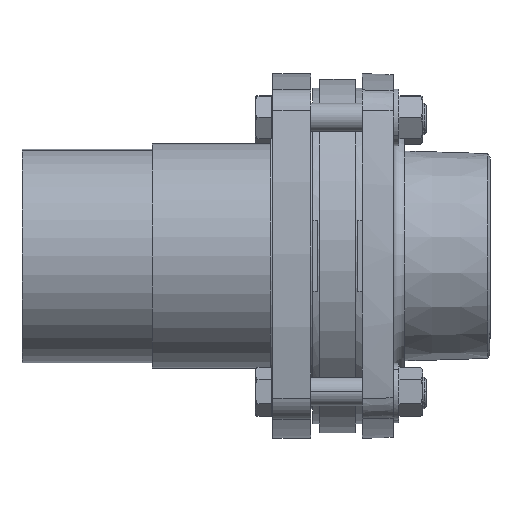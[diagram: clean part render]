
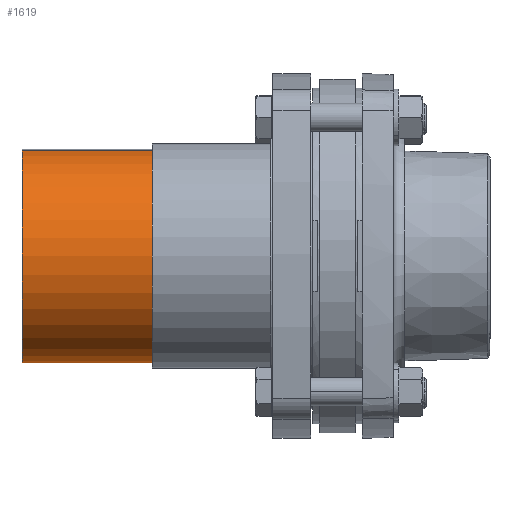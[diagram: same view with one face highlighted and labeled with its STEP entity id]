
A CAD part, front view. The second image highlights one B-rep face of the part: STEP entity #1619.
In plain terms, the highlighted cylindrical face has radius 45.2 mm (diameter 90.4 mm), a partial arc.
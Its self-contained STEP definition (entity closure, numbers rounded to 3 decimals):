
#609 = DIRECTION ( 'NONE',  ( 1., 0., 0. ) ) ;
#613 = FACE_OUTER_BOUND ( 'NONE', #8453, .T. ) ;
#614 = CARTESIAN_POINT ( 'NONE',  ( -123., 0., 0. ) ) ;
#615 = CYLINDRICAL_SURFACE ( 'NONE', #9043, 45.2 ) ;
#616 = DIRECTION ( 'NONE',  ( 0., 0.174, -0.985 ) ) ;
#1172 = CIRCLE ( 'NONE', #1177, 45.2 ) ;
#1177 = AXIS2_PLACEMENT_3D ( 'NONE', #2670, #2671, #2672 ) ;
#1514 = EDGE_CURVE ( 'NONE', #8104, #8116, #1172, .T. ) ;
#1619 = ADVANCED_FACE ( 'NONE', ( #613 ), #615, .T. ) ;
#2670 = CARTESIAN_POINT ( 'NONE',  ( -123., 0., 0. ) ) ;
#2671 = DIRECTION ( 'NONE',  ( -1., 0., 0. ) ) ;
#2672 = DIRECTION ( 'NONE',  ( 0., -0.174, 0.985 ) ) ;
#4143 = ORIENTED_EDGE ( 'NONE', *, *, #10269, .F. ) ;
#4144 = ORIENTED_EDGE ( 'NONE', *, *, #1514, .F. ) ;
#4145 = ORIENTED_EDGE ( 'NONE', *, *, #8647, .T. ) ;
#4146 = ORIENTED_EDGE ( 'NONE', *, *, #8591, .T. ) ;
#4433 = CARTESIAN_POINT ( 'NONE',  ( -123., 7.886, -44.507 ) ) ;
#4445 = CARTESIAN_POINT ( 'NONE',  ( -123., -7.886, 44.507 ) ) ;
#4507 = CARTESIAN_POINT ( 'NONE',  ( -18., -7.886, 44.507 ) ) ;
#4508 = CARTESIAN_POINT ( 'NONE',  ( -18., 7.886, -44.507 ) ) ;
#5264 = CIRCLE ( 'NONE', #5269, 45.2 ) ;
#5269 = AXIS2_PLACEMENT_3D ( 'NONE', #9657, #9658, #9659 ) ;
#5355 = VECTOR ( 'NONE', #9827, 1000. ) ;
#5358 = VECTOR ( 'NONE', #9958, 1000. ) ;
#8104 = VERTEX_POINT ( 'NONE', #4433 ) ;
#8116 = VERTEX_POINT ( 'NONE', #4445 ) ;
#8178 = VERTEX_POINT ( 'NONE', #4507 ) ;
#8179 = VERTEX_POINT ( 'NONE', #4508 ) ;
#8453 = EDGE_LOOP ( 'NONE', ( #4143, #4144, #4145, #4146 ) ) ;
#8591 = EDGE_CURVE ( 'NONE', #8179, #8178, #5264, .T. ) ;
#8647 = EDGE_CURVE ( 'NONE', #8104, #8179, #9816, .T. ) ;
#9043 = AXIS2_PLACEMENT_3D ( 'NONE', #614, #609, #616 ) ;
#9657 = CARTESIAN_POINT ( 'NONE',  ( -18., 0., 0. ) ) ;
#9658 = DIRECTION ( 'NONE',  ( -1., 0., 0. ) ) ;
#9659 = DIRECTION ( 'NONE',  ( 0., -0.174, 0.985 ) ) ;
#9816 = LINE ( 'NONE', #9817, #5355 ) ;
#9817 = CARTESIAN_POINT ( 'NONE',  ( -123., 7.886, -44.507 ) ) ;
#9827 = DIRECTION ( 'NONE',  ( 1., 0., 0. ) ) ;
#9956 = LINE ( 'NONE', #9957, #5358 ) ;
#9957 = CARTESIAN_POINT ( 'NONE',  ( -123., -7.886, 44.507 ) ) ;
#9958 = DIRECTION ( 'NONE',  ( 1., 0., 0. ) ) ;
#10269 = EDGE_CURVE ( 'NONE', #8116, #8178, #9956, .T. ) ;
